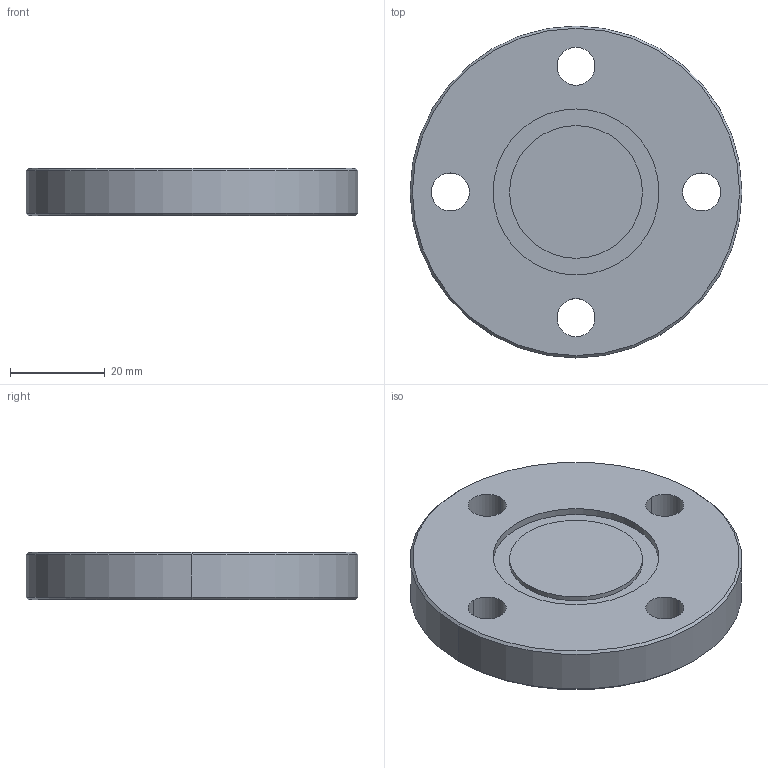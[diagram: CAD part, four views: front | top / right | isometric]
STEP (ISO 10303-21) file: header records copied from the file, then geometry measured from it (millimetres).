
FILE_DESCRIPTION (( 'STEP AP203' ), '1' );
FILE_NAME ('3D_R712_DN29_168071460.STEP', '2024-08-08T11:39:08', ( '' ), ( '' ), 'SwSTEP 2.0', 'SolidWorks 2024', '' );
FILE_SCHEMA (( 'CONFIG_CONTROL_DESIGN' ));
Length unit declared in the file: millimetre
Products named in the file (1): 3D_R712_DN29_168071460
Bounding box: 70 x 70 x 10 mm (x, y, z)
Volume: 35591.8 mm3; surface area: 10622.6 mm2
Topology: 1 solids, 1 shells, 22 faces, 50 edges, 32 vertices
Faces by surface type: cylinder 14, cone 4, plane 4
Entity records: 727 total; most frequent: DIRECTION 128, CARTESIAN_POINT 105, ORIENTED_EDGE 100, AXIS2_PLACEMENT_3D 55, EDGE_CURVE 50, CIRCLE 32, VERTEX_POINT 32, EDGE_LOOP 32
